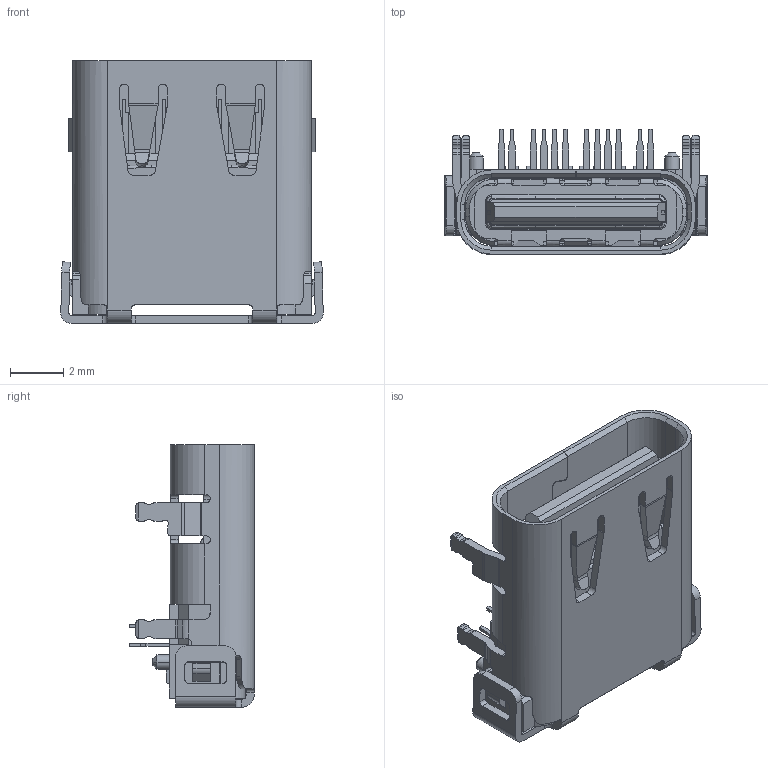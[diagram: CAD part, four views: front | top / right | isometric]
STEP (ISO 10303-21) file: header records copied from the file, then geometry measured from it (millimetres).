
FILE_DESCRIPTION((''),'2;1');
FILE_NAME('8888888','2022-06-13T',('888'),(''),'PRO/ENGINEER BY PARAMETRIC TECHNOLOGY CORPORATION, 2010480','PRO/ENGINEER BY PARAMETRIC TECHNOLOGY CORPORATION, 2010480','');
FILE_SCHEMA(('CONFIG_CONTROL_DESIGN'));
Length unit declared in the file: millimetre
Products named in the file (1): 8888888
Bounding box: 9.85 x 4.69 x 9.87 mm (x, y, z)
Volume: 154.8 mm3; surface area: 721.6 mm2
Topology: 1 solids, 19 shells, 1418 faces, 4007 edges, 2624 vertices
Faces by surface type: plane 1012, cylinder 358, cone 20, torus 16, bspline 12
Entity records: 46330 total; most frequent: CARTESIAN_POINT 9211, ORIENTED_EDGE 8014, DIRECTION 7368, EDGE_CURVE 4007, VECTOR 3094, LINE 3094, VERTEX_POINT 2624, AXIS2_PLACEMENT_3D 2137
